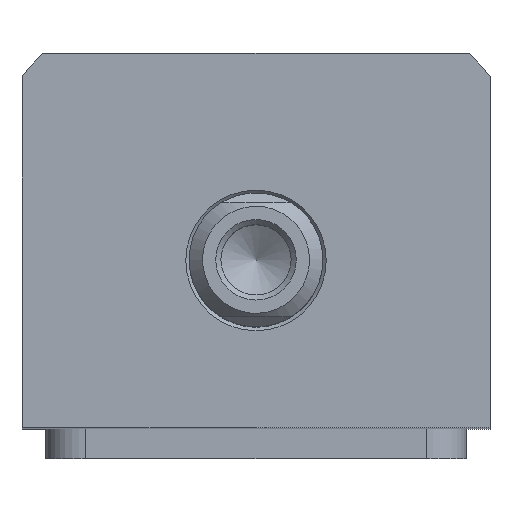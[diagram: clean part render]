
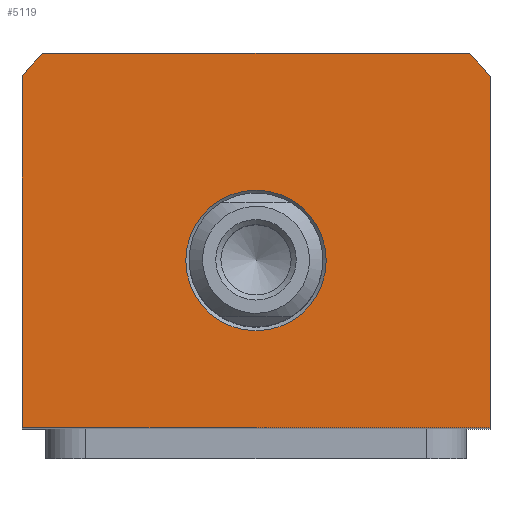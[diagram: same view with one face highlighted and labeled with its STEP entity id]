
A CAD part, top view. The second image highlights one B-rep face of the part: STEP entity #5119.
In plain terms, the highlighted planar face has unit normal (0, 0, 1).
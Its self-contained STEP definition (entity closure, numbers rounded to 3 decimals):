
#2368=LINE('',#15810,#3184);
#2388=LINE('',#16448,#3204);
#2407=LINE('',#16511,#3223);
#2413=LINE('',#16526,#3229);
#3184=VECTOR('',#11363,1.);
#3204=VECTOR('',#11497,1.);
#3223=VECTOR('',#11556,1.);
#3229=VECTOR('',#11572,1.);
#4079=PLANE('',#10925);
#5119=ADVANCED_FACE('',(#5705,#5706),#4079,.T.);
#5539=CIRCLE('',#10843,10.5);
#5575=CIRCLE('',#10904,44.5);
#5579=CIRCLE('',#10910,44.5);
#5705=FACE_BOUND('',#5923,.T.);
#5706=FACE_BOUND('',#5924,.T.);
#5923=EDGE_LOOP('',(#6700));
#5924=EDGE_LOOP('',(#6701,#6702,#6703,#6704,#6705,#6706));
#6700=ORIENTED_EDGE('',*,*,#9653,.T.);
#6701=ORIENTED_EDGE('',*,*,#9748,.T.);
#6702=ORIENTED_EDGE('',*,*,#9652,.T.);
#6703=ORIENTED_EDGE('',*,*,#9754,.T.);
#6704=ORIENTED_EDGE('',*,*,#9780,.T.);
#6705=ORIENTED_EDGE('',*,*,#9762,.T.);
#6706=ORIENTED_EDGE('',*,*,#9789,.T.);
#8798=VERTEX_POINT('',#15780);
#8813=VERTEX_POINT('',#15809);
#8814=VERTEX_POINT('',#15813);
#8901=VERTEX_POINT('',#16444);
#8906=VERTEX_POINT('',#16459);
#8911=VERTEX_POINT('',#16472);
#8914=VERTEX_POINT('',#16477);
#9652=EDGE_CURVE('',#8798,#8813,#2368,.T.);
#9653=EDGE_CURVE('',#8814,#8814,#5539,.T.);
#9748=EDGE_CURVE('',#8901,#8798,#2388,.T.);
#9754=EDGE_CURVE('',#8813,#8906,#5575,.T.);
#9762=EDGE_CURVE('',#8911,#8914,#5579,.T.);
#9780=EDGE_CURVE('',#8906,#8911,#2407,.T.);
#9789=EDGE_CURVE('',#8914,#8901,#2413,.T.);
#10843=AXIS2_PLACEMENT_3D('',#15812,#11366,#11367);
#10904=AXIS2_PLACEMENT_3D('',#16460,#11510,#11511);
#10910=AXIS2_PLACEMENT_3D('',#16478,#11526,#11527);
#10925=AXIS2_PLACEMENT_3D('',#16539,#11582,#11583);
#11363=DIRECTION('',(0.,1.,0.));
#11366=DIRECTION('',(0.,0.,-1.));
#11367=DIRECTION('',(1.,0.,0.));
#11497=DIRECTION('',(1.,0.,0.));
#11510=DIRECTION('',(0.,0.,1.));
#11511=DIRECTION('',(1.,0.,0.));
#11526=DIRECTION('',(0.,0.,1.));
#11527=DIRECTION('',(1.,0.,0.));
#11556=DIRECTION('',(-1.,0.,0.));
#11572=DIRECTION('',(0.,-1.,0.));
#11582=DIRECTION('',(0.,0.,1.));
#11583=DIRECTION('',(-1.,0.,0.));
#15780=CARTESIAN_POINT('',(35.,-25.,59.5));
#15809=CARTESIAN_POINT('',(35.,27.482,59.5));
#15810=CARTESIAN_POINT('',(35.,27.482,59.5));
#15812=CARTESIAN_POINT('',(0.,0.,59.5));
#15813=CARTESIAN_POINT('',(10.5,0.,59.5));
#16444=CARTESIAN_POINT('',(-35.,-25.,59.5));
#16448=CARTESIAN_POINT('',(35.,-25.,59.5));
#16459=CARTESIAN_POINT('',(31.926,31.,59.5));
#16460=CARTESIAN_POINT('',(0.,0.,59.5));
#16472=CARTESIAN_POINT('',(-31.926,31.,59.5));
#16477=CARTESIAN_POINT('',(-35.,27.482,59.5));
#16478=CARTESIAN_POINT('',(0.,0.,59.5));
#16511=CARTESIAN_POINT('',(-31.926,31.,59.5));
#16526=CARTESIAN_POINT('',(-35.,-25.,59.5));
#16539=CARTESIAN_POINT('',(0.,0.,59.5));
